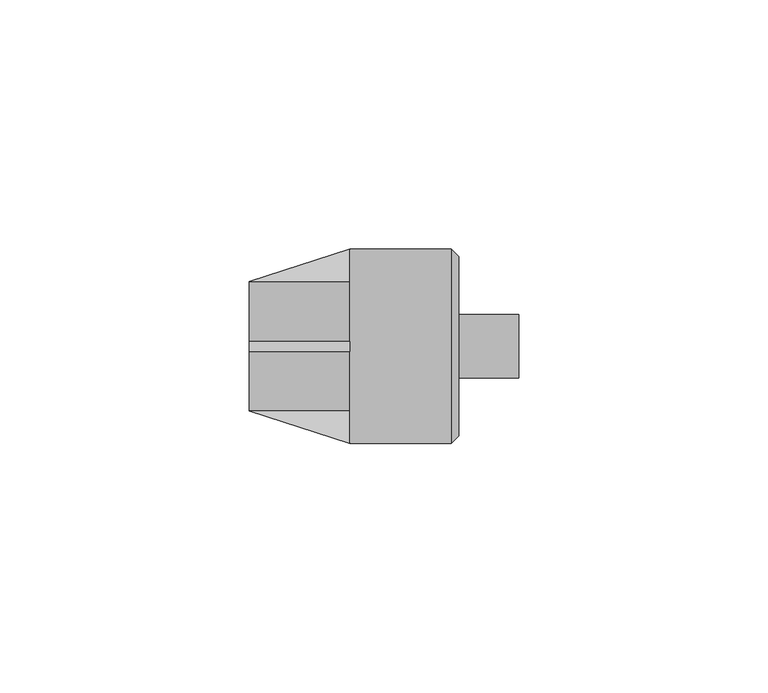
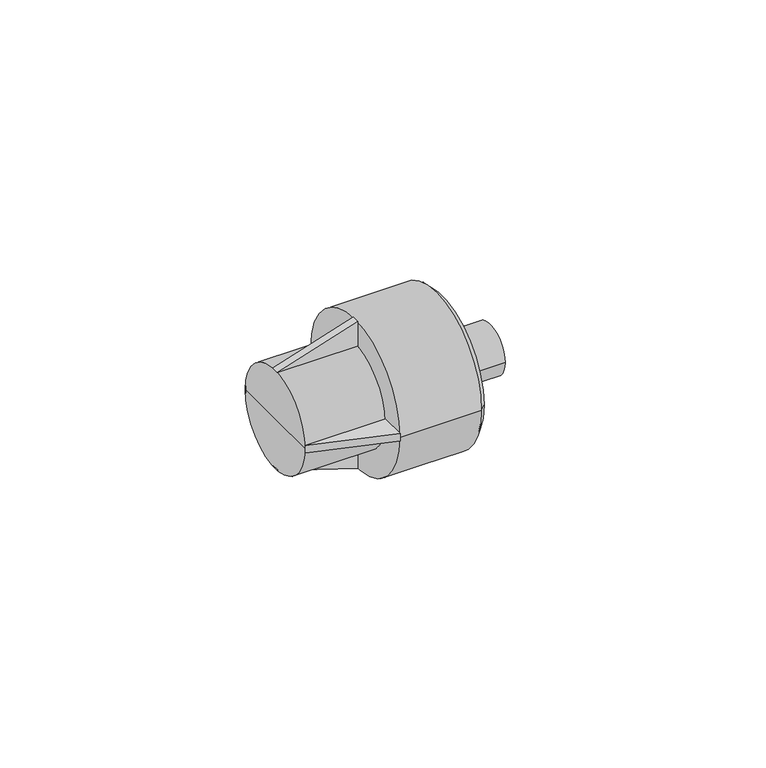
"""IFC4 building model written with IfcOpenShell, lengths in millimetres: pipe fitting geometry, KAN-therm PP mufa gz 1_2 : KAN-therm PP mufa gz 1_2."""

from ifc_helpers import new_model, si_unit, frame, origin, place, context, project, spatial, polyline, circle_curve, outline, extrude, source, transform, mapped, element, save
from ifc_brep_helpers import plane_surface, cylinder_surface, revolved_surface, advanced_brep


def pipe_fitting_9ada75cd(model_context):
    return source(origin(), model_context, "Body", "SolidModel", [
        extrude(outline(polyline([(13.0, -13.3), (13.0, 6.85), (19.5, 6.85), (13.0, -13.3)])), frame((0.0, -1.0, 0.0), z_axis=(0.0, 1.0, 0.0), x_axis=(0.0, 0.0, 1.0)), (0.0, 0.0, 1.0), 2.0),
        extrude(outline(polyline([(-13.0, -13.3), (-19.5, 6.85), (-13.0, 6.85), (-13.0, -13.3)])), frame((0.0, -1.0, 0.0), z_axis=(0.0, 1.0, 0.0), x_axis=(0.0, 0.0, 1.0)), (0.0, 0.0, 1.0), 2.0),
        extrude(outline(polyline([(6.85, 13.0), (-13.3, 13.0), (6.85, 19.5), (6.85, 13.0)])), frame((0.0, 0.0, -1.0), z_axis=(0.0, 0.0, 1.0), x_axis=(1.0, 0.0, 0.0)), (0.0, 0.0, 1.0), 2.0),
        extrude(outline(polyline([(-13.3, -13.0), (6.85, -13.0), (6.85, -19.5), (-13.3, -13.0)])), frame((0.0, 0.0, -1.0), z_axis=(0.0, 0.0, 1.0), x_axis=(1.0, 0.0, 0.0)), (0.0, 0.0, 1.0), 2.0),
        advanced_brep(
        [(40.7, -6.35, 0.0), (40.7, 6.35, 0.0), (40.7, 0.0, 0.0), (6.85, -19.5, 0.0), (6.85, 19.5, 0.0), (27.2, 19.5, 0.0), (27.2, -19.5, 0.0), (-13.3, 0.0, 0.0), (-13.3, 13.0, 0.0), (-13.3, -13.0, 0.0), (6.85, -13.0, 0.0), (6.85, 13.0, 0.0), (28.7, -6.35, 0.0), (28.7, 6.35, 0.0), (28.7, -18.0, 0.0), (28.7, 18.0, 0.0)],
        [
            (0, 1, circle_curve(frame((40.7, 0.0, 0.0), z_axis=(1.0, 0.0, 0.0), x_axis=(0.0, 1.0, 0.0)), 6.35)),
            (1, 2),
            (2, 0),
            (1, 0, circle_curve(frame((40.7, 0.0, 0.0), z_axis=(1.0, 0.0, 0.0), x_axis=(0.0, 1.0, 0.0)), 6.35)),
            (3, 4, circle_curve(frame((6.85, 0.0, 0.0), z_axis=(1.0, 0.0, 0.0), x_axis=(0.0, 1.0, 0.0)), 19.5)),
            (4, 5),
            (5, 6, circle_curve(frame((27.2, 0.0, 0.0), z_axis=(-1.0, 0.0, 0.0), x_axis=(0.0, 1.0, 0.0)), 19.5)),
            (6, 3),
            (4, 3, circle_curve(frame((6.85, 0.0, 0.0), z_axis=(1.0, 0.0, 0.0), x_axis=(0.0, 1.0, 0.0)), 19.5)),
            (6, 5, circle_curve(frame((27.2, 0.0, 0.0), z_axis=(-1.0, 0.0, 0.0), x_axis=(0.0, 1.0, 0.0)), 19.5)),
            (7, 8),
            (8, 9, circle_curve(frame((-13.3, 0.0, 0.0), z_axis=(-1.0, 0.0, 0.0), x_axis=(0.0, 1.0, 0.0)), 13.0)),
            (9, 7),
            (9, 8, circle_curve(frame((-13.3, 0.0, 0.0), z_axis=(-1.0, 0.0, 0.0), x_axis=(0.0, 1.0, 0.0)), 13.0)),
            (10, 11, circle_curve(frame((6.85, 0.0, 0.0), z_axis=(1.0, 0.0, 0.0), x_axis=(0.0, 1.0, 0.0)), 13.0)),
            (11, 4),
            (3, 10),
            (11, 10, circle_curve(frame((6.85, 0.0, 0.0), z_axis=(1.0, 0.0, 0.0), x_axis=(0.0, 1.0, 0.0)), 13.0)),
            (8, 11),
            (10, 9),
            (12, 13, circle_curve(frame((28.7, 0.0, 0.0), z_axis=(1.0, 0.0, 0.0), x_axis=(0.0, 1.0, 0.0)), 6.35)),
            (13, 1),
            (0, 12),
            (13, 12, circle_curve(frame((28.7, 0.0, 0.0), z_axis=(1.0, 0.0, 0.0), x_axis=(0.0, 1.0, 0.0)), 6.35)),
            (14, 15, circle_curve(frame((28.7, 0.0, 0.0), z_axis=(1.0, 0.0, 0.0), x_axis=(0.0, 1.0, 0.0)), 18.0)),
            (15, 13),
            (12, 14),
            (15, 14, circle_curve(frame((28.7, 0.0, 0.0), z_axis=(1.0, 0.0, 0.0), x_axis=(0.0, 1.0, 0.0)), 18.0)),
            (5, 15),
            (14, 6),
        ],
        [
            plane_surface(frame((40.7, 0.0, 0.0), z_axis=(1.0, 0.0, 0.0), x_axis=(0.0, 1.0, 0.0))),
            cylinder_surface(frame((1354.442668, 0.0, 0.0), z_axis=(-1.0, 0.0, 0.0), x_axis=(0.0, 1.0, 0.0)), 19.5),
            plane_surface(frame((-13.3, 0.0, 0.0), z_axis=(-1.0, 0.0, 0.0), x_axis=(0.0, 1.0, 0.0))),
            plane_surface(frame((6.85, 0.0, 0.0), z_axis=(-1.0, 0.0, 0.0), x_axis=(0.0, 1.0, 0.0))),
            cylinder_surface(frame((1354.442668, 0.0, 0.0), z_axis=(-1.0, 0.0, 0.0), x_axis=(0.0, 1.0, 0.0)), 13.0),
            cylinder_surface(frame((1354.442668, 0.0, 0.0), z_axis=(-1.0, 0.0, 0.0), x_axis=(0.0, 1.0, 0.0)), 6.35),
            plane_surface(frame((28.7, 0.0, 0.0), z_axis=(1.0, 0.0, 0.0), x_axis=(0.0, 1.0, 0.0))),
            revolved_surface(polyline([(28.7, 18.0, 0.0), (27.2, 19.5, 0.0)]), (1354.442668, 0.0, 0.0), (-1.0, 0.0, 0.0)),
        ],
        [
            (0, [[1, 2, 3]]),
            (0, [[4, -3, -2]]),
            (1, [[5, 6, 7, 8]]),
            (1, [[9, -8, 10, -6]]),
            (2, [[11, 12, 13]]),
            (2, [[-13, 14, -11]]),
            (3, [[15, 16, -5, 17]]),
            (3, [[18, -17, -9, -16]]),
            (4, [[-12, 19, -15, 20]]),
            (4, [[-14, -20, -18, -19]]),
            (5, [[21, 22, -1, 23]]),
            (5, [[24, -23, -4, -22]]),
            (6, [[25, 26, -21, 27]]),
            (6, [[28, -27, -24, -26]]),
            (7, [[-7, 29, -25, 30]]),
            (7, [[-10, -30, -28, -29]]),
        ],
    ),
    ])


if __name__ == "__main__":
    model = new_model("IFC4")
    model_context = context("Model", 3, world=origin())
    ifc_project = project(units=[si_unit("LENGTHUNIT", "METRE", prefix="MILLI")], contexts=[model_context])
    site = spatial("IfcSite", under=ifc_project)
    building = spatial("IfcBuilding", under=site)
    placement = place(None, origin())
    pipe_fitting_shape = pipe_fitting_9ada75cd(model_context)
    element("IfcPipeFitting", 1, ObjectType="KAN-therm PP mufa gz 1_2 : KAN-therm PP mufa gz 1_2", at=placement, inside=building, context=model_context, shape_type="MappedRepresentation", body=[
        mapped(pipe_fitting_shape, transform((0.0, 0.0, 0.0), x_axis=(1.0, 0.0, 0.0), y_axis=(0.0, 1.0, 0.0), z_axis=(0.0, 0.0, 1.0))),
    ])
    save(model, "model.ifc")
